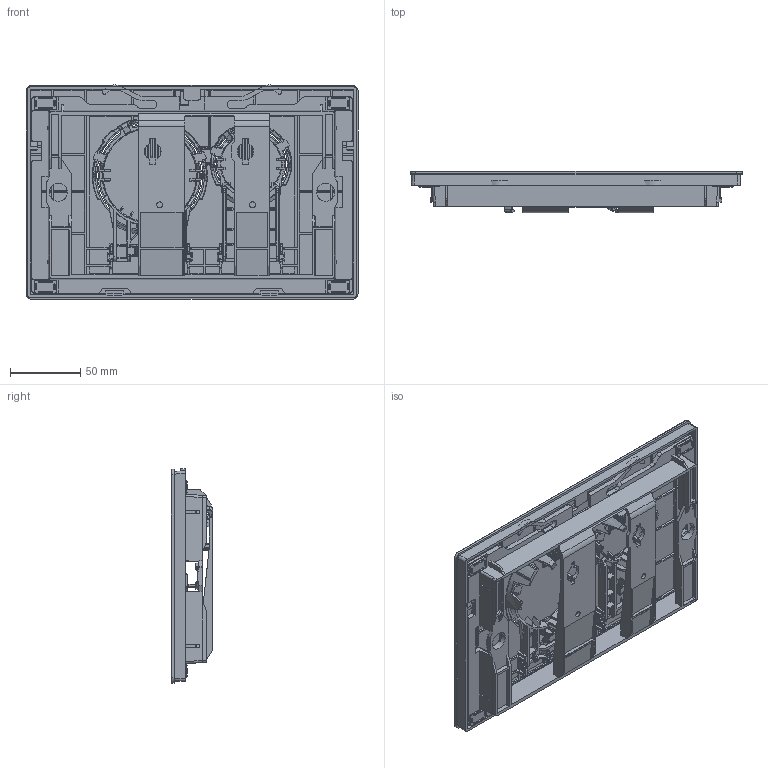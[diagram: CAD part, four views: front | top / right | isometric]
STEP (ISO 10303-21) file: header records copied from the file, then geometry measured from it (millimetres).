
FILE_DESCRIPTION((''),'2;1');
FILE_NAME('M3002-G-0000001_ASM','2025-10-28T16:27:21',('Administrator'),(''),'CREO PARAMETRIC BY PTC INC, 2020033','CREO PARAMETRIC BY PTC INC, 2020033','');
FILE_SCHEMA(('CONFIG_CONTROL_DESIGN'));
Products named in the file (16): 1A016-00-G0; 000; 1A004-00-00; 32001-000; 1A004-00-00_ASM; 1A005-00-00_ASM; 1A017-00-G0; 0003; 3M0001; 0002_ASM; 1A018-00-G0; 0005; 3M0002; 0004_ASM; 0006; M3002-G-0000001_ASM
Assembly tree (23 placements, depth 3):
  M3002-G-0000001_ASM
    1A016-00-G0
    000  x2
    1A004-00-00_ASM
      1A004-00-00
      32001-000  x4
    1A005-00-00_ASM
      32001-000  x4
    0002_ASM
      1A017-00-G0
      0003
      3M0001
    0004_ASM
      1A018-00-G0
      0005
      3M0002
    0006
Bounding box: 236 x 29.6 x 152.25 mm (x, y, z)
Volume: 252069.8 mm3; surface area: 280445.5 mm2
Topology: 19 solids, 19 shells, 3416 faces, 8928 edges, 5602 vertices
Faces by surface type: plane 1379, cylinder 1161, bspline 448, torus 218, cone 158, sphere 48, extrusion 4
Entity records: 115107 total; most frequent: CARTESIAN_POINT 43035, ORIENTED_EDGE 16148, DIRECTION 13587, EDGE_CURVE 8074, VERTEX_POINT 5076, AXIS2_PLACEMENT_3D 4682, VECTOR 4223, LINE 4219
